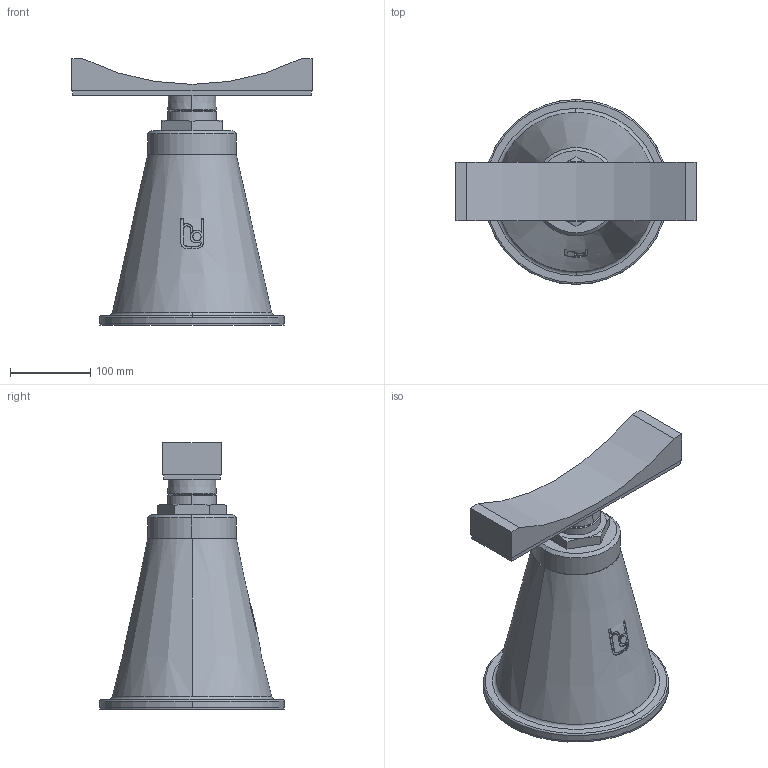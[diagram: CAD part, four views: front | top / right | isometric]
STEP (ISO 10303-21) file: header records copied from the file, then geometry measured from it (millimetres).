
FILE_DESCRIPTION(('STEP AP214'),'1');
FILE_NAME('RSRFA_DN600.stp','2018-06-25T10:01:31',(' '),(' '),'Spatial InterOp 3D',' ',' ');
FILE_SCHEMA(('automotive_design'));
Length unit declared in the file: millimetre
Products named in the file (6): 1; 2; 3; 4; 5; 6
Bounding box: 299 x 230 x 332 mm (x, y, z)
Volume: 6034907.2 mm3; surface area: 450453.2 mm2
Topology: 6 solids, 7 shells, 116 faces, 276 edges, 178 vertices
Faces by surface type: plane 51, cylinder 34, cone 23, torus 8
Entity records: 4788 total; most frequent: CARTESIAN_POINT 1034, DIRECTION 582, ORIENTED_EDGE 552, EDGE_CURVE 276, AXIS2_PLACEMENT_3D 226, VERTEX_POINT 178, LINE 130, VECTOR 130
